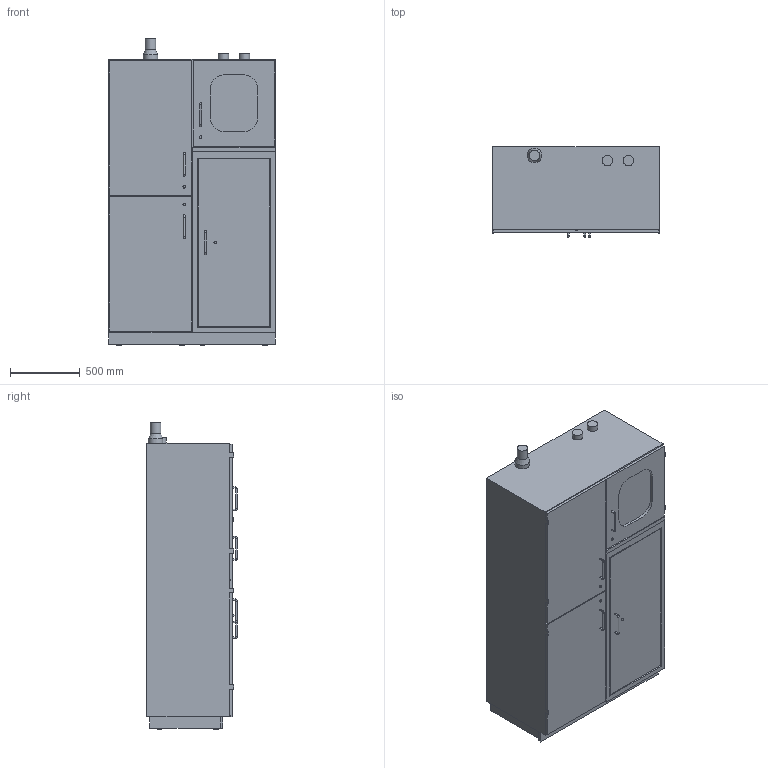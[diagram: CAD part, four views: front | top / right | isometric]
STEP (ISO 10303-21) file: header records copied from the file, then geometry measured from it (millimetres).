
FILE_DESCRIPTION(/* description */ ('Unknown'),/* implementation_level */ '2;1');
FILE_NAME(/* name */ 'HSC XL_D00109942',/* time_stamp */ '2021-02-03T08:17:41+01:00',/* author */ ('Unknown'),/* organization */ ('Unknown'),/* preprocessor_version */ 'ST-DEVELOPER v16.7',/* originating_system */ 'Solid Edge',/* authorisation */ 'Unknown');
FILE_SCHEMA (('AUTOMOTIVE_DESIGN {1 0 10303 214 3 1 1}'));
Length unit declared in the file: millimetre
Products named in the file (1): HSC XL_D00109942
Bounding box: 1194 x 647 x 2190 mm (x, y, z)
Volume: 1421155843.8 mm3; surface area: 10103597.8 mm2
Topology: 1 solids, 1 shells, 178 faces, 464 edges, 307 vertices
Faces by surface type: plane 127, cylinder 41, torus 8, cone 2
Full cylindrical faces by diameter (mm): 12 x12, 18 x4, 30 x8, 75 x4, 101.5 x1, 105 x1, 112 x1
Entity records: 6325 total; most frequent: CARTESIAN_POINT 869, DIRECTION 843, ORIENTED_EDGE 806, EDGE_CURVE 403, LINE 321, VECTOR 321, VERTEX_POINT 287, AXIS2_PLACEMENT_3D 261
